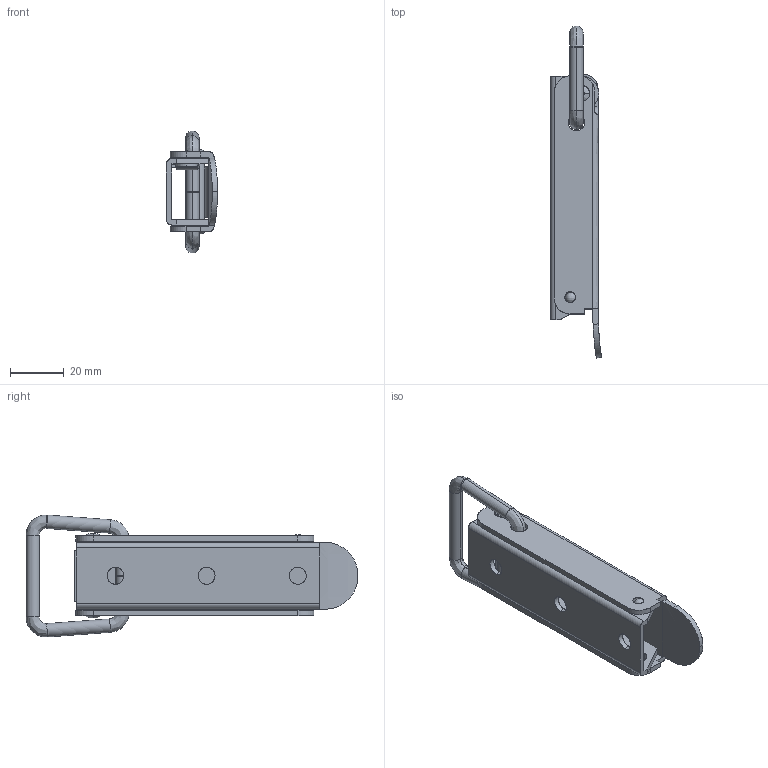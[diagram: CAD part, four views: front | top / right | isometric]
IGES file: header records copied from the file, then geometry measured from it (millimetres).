
Start section: SolidWorks IGES FILE using analytic representation for surfaces
Global section: file name: C:\Documents and Settings\lecoutey\Bureau\GO 33\GO 33.IGS; native system: SolidWorks 2004 by SolidWorks Corporation; preprocessor: Version 5.3; author: lecoutey; date: 050329.114331; units: millimetre
Bounding box: 19.05 x 123.8 x 45.49 mm (x, y, z)
Surface area: 24166.9 mm2 (no closed solid volume)
Topology: 0 solids, 0 shells, 174 faces, 2754 edges, 2753 vertices
Faces by surface type: revolution 89, bspline 85
